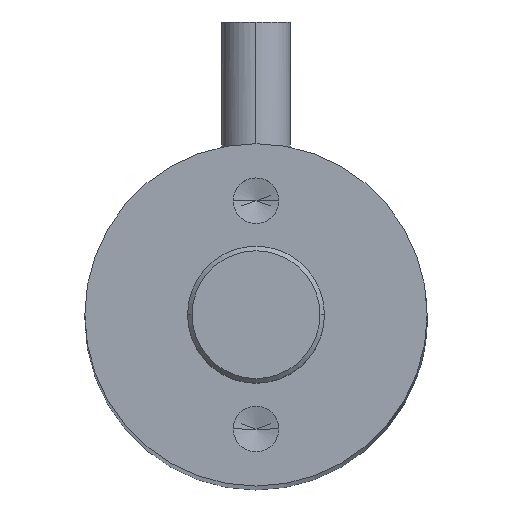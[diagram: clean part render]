
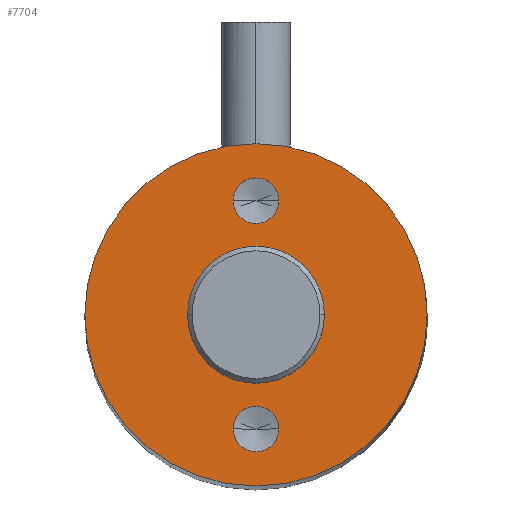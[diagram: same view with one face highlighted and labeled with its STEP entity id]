
A CAD part, top view. The second image highlights one B-rep face of the part: STEP entity #7704.
In plain terms, the highlighted planar face has unit normal (0, 0, 1).
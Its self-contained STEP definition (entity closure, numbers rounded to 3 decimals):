
#547 = CIRCLE ( 'NONE', #33044, 3. ) ;
#1014 = CARTESIAN_POINT ( 'NONE',  ( -7.5, 0., 100.6 ) ) ;
#1029 = VERTEX_POINT ( 'NONE', #30999 ) ;
#2745 = AXIS2_PLACEMENT_3D ( 'NONE', #18413, #9668, #12252 ) ;
#2998 = DIRECTION ( 'NONE',  ( 1., 0., 0. ) ) ;
#3848 = CARTESIAN_POINT ( 'NONE',  ( 0., 5., 100.6 ) ) ;
#4204 = CARTESIAN_POINT ( 'NONE',  ( 0., -5., 100.6 ) ) ;
#4518 = ORIENTED_EDGE ( 'NONE', *, *, #29339, .F. ) ;
#5047 = FACE_OUTER_BOUND ( 'NONE', #26400, .T. ) ;
#5249 = CARTESIAN_POINT ( 'NONE',  ( 0., 0., 100.6 ) ) ;
#5268 = AXIS2_PLACEMENT_3D ( 'NONE', #5249, #23328, #8299 ) ;
#6175 = EDGE_CURVE ( 'NONE', #13908, #7326, #21072, .T. ) ;
#6507 = EDGE_CURVE ( 'NONE', #17945, #31307, #9290, .T. ) ;
#7326 = VERTEX_POINT ( 'NONE', #10384 ) ;
#7704 = ADVANCED_FACE ( 'NONE', ( #13047, #25315, #37204, #5047 ), #15516, .T. ) ;
#7744 = EDGE_CURVE ( 'NONE', #31307, #17945, #30980, .T. ) ;
#8299 = DIRECTION ( 'NONE',  ( 1., 0., 0. ) ) ;
#8380 = CARTESIAN_POINT ( 'NONE',  ( 3., 0., 100.6 ) ) ;
#9163 = CARTESIAN_POINT ( 'NONE',  ( -1., -5., 100.6 ) ) ;
#9290 = CIRCLE ( 'NONE', #35781, 1. ) ;
#9544 = VERTEX_POINT ( 'NONE', #15158 ) ;
#9668 = DIRECTION ( 'NONE',  ( 0., 0., 1. ) ) ;
#9977 = EDGE_CURVE ( 'NONE', #10267, #1029, #25770, .T. ) ;
#10267 = VERTEX_POINT ( 'NONE', #8380 ) ;
#10384 = CARTESIAN_POINT ( 'NONE',  ( -1., 5., 100.6 ) ) ;
#10841 = AXIS2_PLACEMENT_3D ( 'NONE', #11164, #17183, #38385 ) ;
#11164 = CARTESIAN_POINT ( 'NONE',  ( 0., 0., 100.6 ) ) ;
#12252 = DIRECTION ( 'NONE',  ( 1., 0., 0. ) ) ;
#13047 = FACE_BOUND ( 'NONE', #14110, .T. ) ;
#13144 = DIRECTION ( 'NONE',  ( 1., 0., 0. ) ) ;
#13368 = EDGE_CURVE ( 'NONE', #7326, #13908, #25241, .T. ) ;
#13399 = DIRECTION ( 'NONE',  ( 0., 0., 1. ) ) ;
#13908 = VERTEX_POINT ( 'NONE', #34874 ) ;
#14110 = EDGE_LOOP ( 'NONE', ( #20155, #17721 ) ) ;
#14143 = ORIENTED_EDGE ( 'NONE', *, *, #13368, .F. ) ;
#15158 = CARTESIAN_POINT ( 'NONE',  ( 7.5, 0., 100.6 ) ) ;
#15516 = PLANE ( 'NONE',  #2745 ) ;
#16305 = DIRECTION ( 'NONE',  ( 1., 0., 0. ) ) ;
#17183 = DIRECTION ( 'NONE',  ( 0., 0., 1. ) ) ;
#17191 = AXIS2_PLACEMENT_3D ( 'NONE', #27316, #36496, #21125 ) ;
#17652 = AXIS2_PLACEMENT_3D ( 'NONE', #3848, #18959, #27724 ) ;
#17721 = ORIENTED_EDGE ( 'NONE', *, *, #7744, .F. ) ;
#17945 = VERTEX_POINT ( 'NONE', #31165 ) ;
#18413 = CARTESIAN_POINT ( 'NONE',  ( 0., 0., 100.6 ) ) ;
#18504 = DIRECTION ( 'NONE',  ( 1., 0., 0. ) ) ;
#18959 = DIRECTION ( 'NONE',  ( 0., 0., 1. ) ) ;
#19969 = EDGE_CURVE ( 'NONE', #20752, #9544, #32274, .T. ) ;
#20155 = ORIENTED_EDGE ( 'NONE', *, *, #6507, .F. ) ;
#20752 = VERTEX_POINT ( 'NONE', #1014 ) ;
#21072 = CIRCLE ( 'NONE', #24325, 1. ) ;
#21125 = DIRECTION ( 'NONE',  ( 1., 0., 0. ) ) ;
#22036 = DIRECTION ( 'NONE',  ( 0., 0., 1. ) ) ;
#23328 = DIRECTION ( 'NONE',  ( 0., 0., 1. ) ) ;
#24325 = AXIS2_PLACEMENT_3D ( 'NONE', #33635, #36701, #18504 ) ;
#25030 = CIRCLE ( 'NONE', #10841, 7.5 ) ;
#25241 = CIRCLE ( 'NONE', #17652, 1. ) ;
#25315 = FACE_BOUND ( 'NONE', #37576, .T. ) ;
#25493 = AXIS2_PLACEMENT_3D ( 'NONE', #4204, #22036, #16305 ) ;
#25770 = CIRCLE ( 'NONE', #5268, 3. ) ;
#26400 = EDGE_LOOP ( 'NONE', ( #30304, #32642 ) ) ;
#27316 = CARTESIAN_POINT ( 'NONE',  ( 0., 0., 100.6 ) ) ;
#27724 = DIRECTION ( 'NONE',  ( 1., 0., 0. ) ) ;
#28960 = ORIENTED_EDGE ( 'NONE', *, *, #6175, .F. ) ;
#29339 = EDGE_CURVE ( 'NONE', #1029, #10267, #547, .T. ) ;
#30304 = ORIENTED_EDGE ( 'NONE', *, *, #19969, .T. ) ;
#30980 = CIRCLE ( 'NONE', #25493, 1. ) ;
#30999 = CARTESIAN_POINT ( 'NONE',  ( -3., 0., 100.6 ) ) ;
#31165 = CARTESIAN_POINT ( 'NONE',  ( 1., -5., 100.6 ) ) ;
#31307 = VERTEX_POINT ( 'NONE', #9163 ) ;
#31375 = CARTESIAN_POINT ( 'NONE',  ( 0., 0., 100.6 ) ) ;
#31981 = ORIENTED_EDGE ( 'NONE', *, *, #9977, .F. ) ;
#32274 = CIRCLE ( 'NONE', #17191, 7.5 ) ;
#32642 = ORIENTED_EDGE ( 'NONE', *, *, #33602, .T. ) ;
#33044 = AXIS2_PLACEMENT_3D ( 'NONE', #31375, #13399, #13144 ) ;
#33602 = EDGE_CURVE ( 'NONE', #9544, #20752, #25030, .T. ) ;
#33635 = CARTESIAN_POINT ( 'NONE',  ( 0., 5., 100.6 ) ) ;
#34756 = EDGE_LOOP ( 'NONE', ( #4518, #31981 ) ) ;
#34874 = CARTESIAN_POINT ( 'NONE',  ( 1., 5., 100.6 ) ) ;
#35781 = AXIS2_PLACEMENT_3D ( 'NONE', #36161, #39195, #2998 ) ;
#36161 = CARTESIAN_POINT ( 'NONE',  ( 0., -5., 100.6 ) ) ;
#36496 = DIRECTION ( 'NONE',  ( 0., 0., 1. ) ) ;
#36701 = DIRECTION ( 'NONE',  ( 0., 0., 1. ) ) ;
#37204 = FACE_BOUND ( 'NONE', #34756, .T. ) ;
#37576 = EDGE_LOOP ( 'NONE', ( #28960, #14143 ) ) ;
#38385 = DIRECTION ( 'NONE',  ( 1., 0., 0. ) ) ;
#39195 = DIRECTION ( 'NONE',  ( 0., 0., 1. ) ) ;
